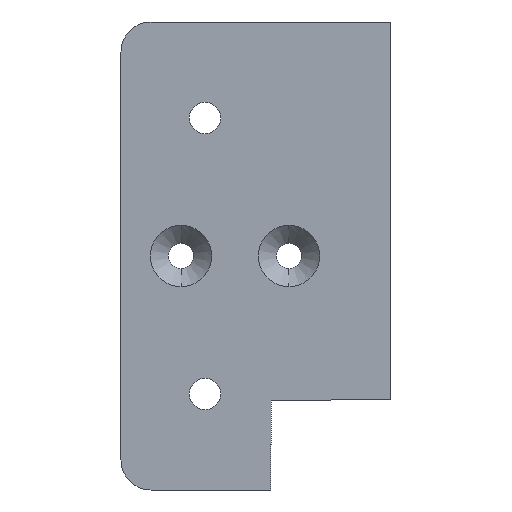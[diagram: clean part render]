
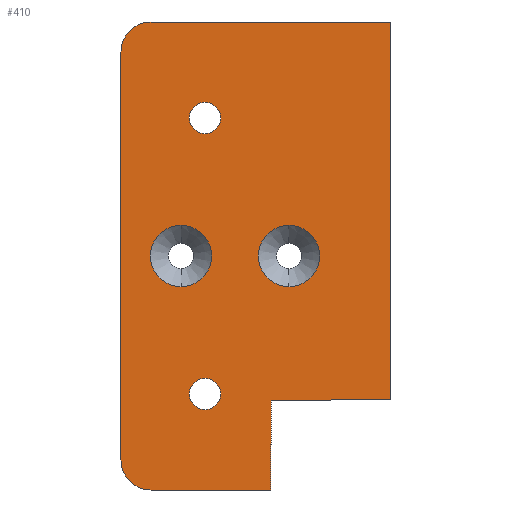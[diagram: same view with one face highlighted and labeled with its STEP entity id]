
A CAD part, left-side view. The second image highlights one B-rep face of the part: STEP entity #410.
In plain terms, the highlighted planar face has unit normal (-1, 0, 0).
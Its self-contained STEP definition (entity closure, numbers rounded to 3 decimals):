
#2 = EDGE_CURVE ( 'NONE', #1016, #583, #128, .T. ) ;
#13 = DIRECTION ( 'NONE',  ( 0., 0., -1. ) ) ;
#19 = VECTOR ( 'NONE', #819, 1000. ) ;
#21 = EDGE_CURVE ( 'NONE', #267, #249, #949, .T. ) ;
#42 = CARTESIAN_POINT ( 'NONE',  ( 0., 33.5, 0. ) ) ;
#56 = CIRCLE ( 'NONE', #500, 5. ) ;
#58 = CARTESIAN_POINT ( 'NONE',  ( 0., 15.5, -5.1 ) ) ;
#70 = CIRCLE ( 'NONE', #282, 2.6 ) ;
#72 = LINE ( 'NONE', #348, #150 ) ;
#73 = EDGE_CURVE ( 'NONE', #249, #155, #902, .T. ) ;
#77 = CARTESIAN_POINT ( 'NONE',  ( 0., 29.5, 23. ) ) ;
#86 = EDGE_LOOP ( 'NONE', ( #571, #265 ) ) ;
#93 = CIRCLE ( 'NONE', #778, 5.1 ) ;
#97 = CARTESIAN_POINT ( 'NONE',  ( 0., 33.5, 0. ) ) ;
#98 = VERTEX_POINT ( 'NONE', #58 ) ;
#99 = DIRECTION ( 'NONE',  ( 0., 0., 1. ) ) ;
#114 = CARTESIAN_POINT ( 'NONE',  ( 0., 33.5, 5.1 ) ) ;
#120 = DIRECTION ( 'NONE',  ( 0., 0., 1. ) ) ;
#126 = VECTOR ( 'NONE', #120, 1000. ) ;
#128 = CIRCLE ( 'NONE', #791, 5.1 ) ;
#129 = VERTEX_POINT ( 'NONE', #618 ) ;
#150 = VECTOR ( 'NONE', #629, 1000. ) ;
#155 = VERTEX_POINT ( 'NONE', #700 ) ;
#163 = ORIENTED_EDGE ( 'NONE', *, *, #331, .T. ) ;
#175 = DIRECTION ( 'NONE',  ( 1., 0., 0. ) ) ;
#178 = DIRECTION ( 'NONE',  ( 0., 0., 1. ) ) ;
#183 = VERTEX_POINT ( 'NONE', #512 ) ;
#198 = FACE_BOUND ( 'NONE', #640, .T. ) ;
#204 = EDGE_LOOP ( 'NONE', ( #163, #696 ) ) ;
#212 = VECTOR ( 'NONE', #271, 1000. ) ;
#238 = ORIENTED_EDGE ( 'NONE', *, *, #21, .F. ) ;
#241 = CARTESIAN_POINT ( 'NONE',  ( 0., -1.5, 39. ) ) ;
#247 = DIRECTION ( 'NONE',  ( 1., 0., 0. ) ) ;
#249 = VERTEX_POINT ( 'NONE', #427 ) ;
#256 = CARTESIAN_POINT ( 'NONE',  ( 0., 29.5, -25.6 ) ) ;
#265 = ORIENTED_EDGE ( 'NONE', *, *, #413, .T. ) ;
#266 = DIRECTION ( 'NONE',  ( 0., 0., -1. ) ) ;
#267 = VERTEX_POINT ( 'NONE', #903 ) ;
#271 = DIRECTION ( 'NONE',  ( 0., 0., -1. ) ) ;
#282 = AXIS2_PLACEMENT_3D ( 'NONE', #744, #443, #564 ) ;
#283 = FACE_OUTER_BOUND ( 'NONE', #780, .T. ) ;
#288 = CARTESIAN_POINT ( 'NONE',  ( 0., 18.5, -39. ) ) ;
#299 = ORIENTED_EDGE ( 'NONE', *, *, #311, .F. ) ;
#311 = EDGE_CURVE ( 'NONE', #1118, #183, #1059, .T. ) ;
#313 = VERTEX_POINT ( 'NONE', #241 ) ;
#322 = ORIENTED_EDGE ( 'NONE', *, *, #982, .T. ) ;
#331 = EDGE_CURVE ( 'NONE', #583, #1016, #924, .T. ) ;
#348 = CARTESIAN_POINT ( 'NONE',  ( 0., -1.5, 39. ) ) ;
#370 = VERTEX_POINT ( 'NONE', #256 ) ;
#380 = AXIS2_PLACEMENT_3D ( 'NONE', #478, #1138, #856 ) ;
#382 = CIRCLE ( 'NONE', #1048, 2.6 ) ;
#386 = CARTESIAN_POINT ( 'NONE',  ( 0., 29.5, -20.4 ) ) ;
#388 = ORIENTED_EDGE ( 'NONE', *, *, #423, .F. ) ;
#396 = CARTESIAN_POINT ( 'NONE',  ( 0., 15.5, 0. ) ) ;
#398 = EDGE_CURVE ( 'NONE', #625, #129, #419, .T. ) ;
#410 = ADVANCED_FACE ( 'NONE', ( #817, #750, #198, #283, #827 ), #909, .T. ) ;
#413 = EDGE_CURVE ( 'NONE', #370, #911, #70, .T. ) ;
#419 = CIRCLE ( 'NONE', #775, 2.6 ) ;
#423 = EDGE_CURVE ( 'NONE', #155, #313, #72, .T. ) ;
#427 = CARTESIAN_POINT ( 'NONE',  ( 0., 43.5, 34. ) ) ;
#437 = AXIS2_PLACEMENT_3D ( 'NONE', #922, #1104, #1181 ) ;
#443 = DIRECTION ( 'NONE',  ( 1., 0., 0. ) ) ;
#455 = ORIENTED_EDGE ( 'NONE', *, *, #1094, .F. ) ;
#467 = CARTESIAN_POINT ( 'NONE',  ( 0., -1.5, 39. ) ) ;
#469 = DIRECTION ( 'NONE',  ( 1., 0., 0. ) ) ;
#478 = CARTESIAN_POINT ( 'NONE',  ( 0., 15.5, 0. ) ) ;
#500 = AXIS2_PLACEMENT_3D ( 'NONE', #639, #655, #99 ) ;
#506 = DIRECTION ( 'NONE',  ( 0., 1., 0. ) ) ;
#512 = CARTESIAN_POINT ( 'NONE',  ( 0., 38.5, -39. ) ) ;
#533 = AXIS2_PLACEMENT_3D ( 'NONE', #97, #720, #650 ) ;
#547 = EDGE_LOOP ( 'NONE', ( #322, #923 ) ) ;
#564 = DIRECTION ( 'NONE',  ( 0., 0., -1. ) ) ;
#566 = ORIENTED_EDGE ( 'NONE', *, *, #992, .F. ) ;
#571 = ORIENTED_EDGE ( 'NONE', *, *, #904, .T. ) ;
#573 = CARTESIAN_POINT ( 'NONE',  ( 0., 15.5, 5.1 ) ) ;
#583 = VERTEX_POINT ( 'NONE', #114 ) ;
#588 = VERTEX_POINT ( 'NONE', #948 ) ;
#608 = EDGE_CURVE ( 'NONE', #98, #1119, #993, .T. ) ;
#618 = CARTESIAN_POINT ( 'NONE',  ( 0., 29.5, 25.6 ) ) ;
#625 = VERTEX_POINT ( 'NONE', #1070 ) ;
#628 = DIRECTION ( 'NONE',  ( 0., 0., -1. ) ) ;
#629 = DIRECTION ( 'NONE',  ( 0., -1., 0. ) ) ;
#631 = CARTESIAN_POINT ( 'NONE',  ( 0., 18.5, -24. ) ) ;
#639 = CARTESIAN_POINT ( 'NONE',  ( 0., 38.5, -34. ) ) ;
#640 = EDGE_LOOP ( 'NONE', ( #706, #879 ) ) ;
#650 = DIRECTION ( 'NONE',  ( 0., 0., 1. ) ) ;
#655 = DIRECTION ( 'NONE',  ( 1., 0., 0. ) ) ;
#690 = CARTESIAN_POINT ( 'NONE',  ( 0., 43.5, 34. ) ) ;
#696 = ORIENTED_EDGE ( 'NONE', *, *, #2, .T. ) ;
#700 = CARTESIAN_POINT ( 'NONE',  ( 0., 38.5, 39. ) ) ;
#706 = ORIENTED_EDGE ( 'NONE', *, *, #810, .T. ) ;
#720 = DIRECTION ( 'NONE',  ( 1., 0., 0. ) ) ;
#727 = DIRECTION ( 'NONE',  ( 1., 0., 0. ) ) ;
#733 = LINE ( 'NONE', #1087, #1018 ) ;
#744 = CARTESIAN_POINT ( 'NONE',  ( 0., 29.5, -23. ) ) ;
#750 = FACE_BOUND ( 'NONE', #204, .T. ) ;
#774 = DIRECTION ( 'NONE',  ( 1., 0., 0. ) ) ;
#775 = AXIS2_PLACEMENT_3D ( 'NONE', #1003, #175, #1170 ) ;
#778 = AXIS2_PLACEMENT_3D ( 'NONE', #396, #774, #178 ) ;
#780 = EDGE_LOOP ( 'NONE', ( #818, #238, #938, #299, #784, #566, #455, #388 ) ) ;
#784 = ORIENTED_EDGE ( 'NONE', *, *, #1069, .F. ) ;
#788 = CARTESIAN_POINT ( 'NONE',  ( 0., 18.5, -39. ) ) ;
#791 = AXIS2_PLACEMENT_3D ( 'NONE', #42, #1035, #1124 ) ;
#798 = DIRECTION ( 'NONE',  ( 0., 0., 1. ) ) ;
#810 = EDGE_CURVE ( 'NONE', #129, #625, #963, .T. ) ;
#817 = FACE_BOUND ( 'NONE', #547, .T. ) ;
#818 = ORIENTED_EDGE ( 'NONE', *, *, #73, .F. ) ;
#819 = DIRECTION ( 'NONE',  ( 0., 1., 0. ) ) ;
#827 = FACE_BOUND ( 'NONE', #86, .T. ) ;
#830 = LINE ( 'NONE', #467, #212 ) ;
#856 = DIRECTION ( 'NONE',  ( 0., 0., 1. ) ) ;
#879 = ORIENTED_EDGE ( 'NONE', *, *, #398, .T. ) ;
#902 = CIRCLE ( 'NONE', #1045, 5. ) ;
#903 = CARTESIAN_POINT ( 'NONE',  ( 0., 43.5, -34. ) ) ;
#904 = EDGE_CURVE ( 'NONE', #911, #370, #382, .T. ) ;
#909 = PLANE ( 'NONE',  #437 ) ;
#911 = VERTEX_POINT ( 'NONE', #386 ) ;
#918 = VERTEX_POINT ( 'NONE', #1116 ) ;
#922 = CARTESIAN_POINT ( 'NONE',  ( 0., 38.5, 34. ) ) ;
#923 = ORIENTED_EDGE ( 'NONE', *, *, #608, .T. ) ;
#924 = CIRCLE ( 'NONE', #533, 5.1 ) ;
#938 = ORIENTED_EDGE ( 'NONE', *, *, #1073, .F. ) ;
#946 = AXIS2_PLACEMENT_3D ( 'NONE', #77, #727, #628 ) ;
#948 = CARTESIAN_POINT ( 'NONE',  ( 0., 18.5, -24. ) ) ;
#949 = LINE ( 'NONE', #690, #126 ) ;
#963 = CIRCLE ( 'NONE', #946, 2.6 ) ;
#968 = CARTESIAN_POINT ( 'NONE',  ( 0., 38.5, 34. ) ) ;
#982 = EDGE_CURVE ( 'NONE', #1119, #98, #93, .T. ) ;
#992 = EDGE_CURVE ( 'NONE', #918, #588, #1015, .T. ) ;
#993 = CIRCLE ( 'NONE', #380, 5.1 ) ;
#1003 = CARTESIAN_POINT ( 'NONE',  ( 0., 29.5, 23. ) ) ;
#1014 = VECTOR ( 'NONE', #506, 1000. ) ;
#1015 = LINE ( 'NONE', #631, #19 ) ;
#1016 = VERTEX_POINT ( 'NONE', #1095 ) ;
#1018 = VECTOR ( 'NONE', #266, 1000. ) ;
#1035 = DIRECTION ( 'NONE',  ( 1., 0., 0. ) ) ;
#1045 = AXIS2_PLACEMENT_3D ( 'NONE', #968, #247, #798 ) ;
#1048 = AXIS2_PLACEMENT_3D ( 'NONE', #1127, #469, #13 ) ;
#1059 = LINE ( 'NONE', #788, #1014 ) ;
#1069 = EDGE_CURVE ( 'NONE', #588, #1118, #733, .T. ) ;
#1070 = CARTESIAN_POINT ( 'NONE',  ( 0., 29.5, 20.4 ) ) ;
#1073 = EDGE_CURVE ( 'NONE', #183, #267, #56, .T. ) ;
#1087 = CARTESIAN_POINT ( 'NONE',  ( 0., 18.5, -39. ) ) ;
#1094 = EDGE_CURVE ( 'NONE', #313, #918, #830, .T. ) ;
#1095 = CARTESIAN_POINT ( 'NONE',  ( 0., 33.5, -5.1 ) ) ;
#1104 = DIRECTION ( 'NONE',  ( -1., 0., 0. ) ) ;
#1116 = CARTESIAN_POINT ( 'NONE',  ( 0., -1.5, -24. ) ) ;
#1118 = VERTEX_POINT ( 'NONE', #288 ) ;
#1119 = VERTEX_POINT ( 'NONE', #573 ) ;
#1124 = DIRECTION ( 'NONE',  ( 0., 0., 1. ) ) ;
#1127 = CARTESIAN_POINT ( 'NONE',  ( 0., 29.5, -23. ) ) ;
#1138 = DIRECTION ( 'NONE',  ( 1., 0., 0. ) ) ;
#1170 = DIRECTION ( 'NONE',  ( 0., 0., -1. ) ) ;
#1181 = DIRECTION ( 'NONE',  ( 0., 0., 1. ) ) ;
